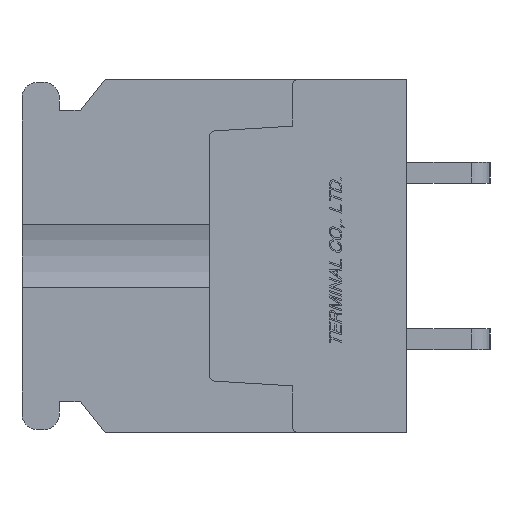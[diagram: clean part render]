
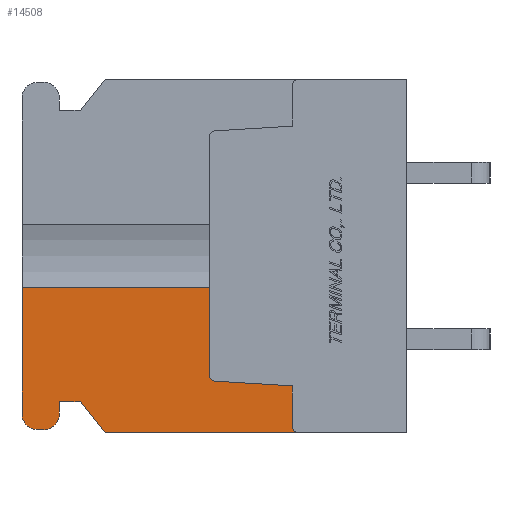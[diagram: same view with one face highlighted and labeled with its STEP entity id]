
A CAD part, left-side view. The second image highlights one B-rep face of the part: STEP entity #14508.
In plain terms, the highlighted planar face has unit normal (-1, 0, 0).
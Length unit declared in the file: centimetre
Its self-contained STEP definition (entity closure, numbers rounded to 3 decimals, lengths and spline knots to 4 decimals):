
#1771=VECTOR('',#17710,1.);
#1772=VECTOR('',#17711,1.);
#1773=VECTOR('',#17712,1.);
#1774=VECTOR('',#17715,1.);
#1775=VECTOR('',#17718,1.);
#1776=VECTOR('',#17719,1.);
#1777=VECTOR('',#17720,1.);
#1778=VECTOR('',#17721,1.);
#1779=VECTOR('',#17724,1.);
#1780=VECTOR('',#17725,1.);
#3356=LINE('',#22262,#1771);
#3357=LINE('',#22265,#1772);
#3358=LINE('',#22267,#1773);
#3359=LINE('',#22271,#1774);
#3360=LINE('',#22275,#1775);
#3361=LINE('',#22277,#1776);
#3362=LINE('',#22279,#1777);
#3363=LINE('',#22281,#1778);
#3364=LINE('',#22285,#1779);
#3365=LINE('',#22287,#1780);
#4887=VERTEX_POINT('',#22263);
#4888=VERTEX_POINT('',#22264);
#4889=VERTEX_POINT('',#22266);
#4890=VERTEX_POINT('',#22268);
#4891=VERTEX_POINT('',#22270);
#4892=VERTEX_POINT('',#22272);
#4893=VERTEX_POINT('',#22274);
#4894=VERTEX_POINT('',#22276);
#4895=VERTEX_POINT('',#22278);
#4896=VERTEX_POINT('',#22280);
#4897=VERTEX_POINT('',#22282);
#4898=VERTEX_POINT('',#22284);
#4899=VERTEX_POINT('',#22286);
#4900=VERTEX_POINT('',#22288);
#5537=CIRCLE('',#24733,0.075);
#5538=CIRCLE('',#24734,0.075);
#5539=CIRCLE('',#24735,0.03);
#5540=CIRCLE('',#24736,0.03);
#7174=EDGE_CURVE('',#4887,#4888,#3356,.T.);
#7175=EDGE_CURVE('',#4887,#4889,#3357,.T.);
#7176=EDGE_CURVE('',#4890,#4889,#3358,.T.);
#7177=EDGE_CURVE('',#4891,#4890,#5537,.T.);
#7178=EDGE_CURVE('',#4892,#4891,#3359,.T.);
#7179=EDGE_CURVE('',#4893,#4892,#5538,.T.);
#7180=EDGE_CURVE('',#4894,#4893,#3360,.T.);
#7181=EDGE_CURVE('',#4895,#4894,#3361,.T.);
#7182=EDGE_CURVE('',#4896,#4895,#3362,.T.);
#7183=EDGE_CURVE('',#4897,#4896,#3363,.T.);
#7184=EDGE_CURVE('',#4898,#4897,#5539,.T.);
#7185=EDGE_CURVE('',#4899,#4898,#3364,.T.);
#7186=EDGE_CURVE('',#4900,#4899,#3365,.T.);
#7187=EDGE_CURVE('',#4888,#4900,#5540,.T.);
#10865=ORIENTED_EDGE('',*,*,#7174,.F.);
#10866=ORIENTED_EDGE('',*,*,#7175,.T.);
#10867=ORIENTED_EDGE('',*,*,#7176,.F.);
#10868=ORIENTED_EDGE('',*,*,#7177,.F.);
#10869=ORIENTED_EDGE('',*,*,#7178,.F.);
#10870=ORIENTED_EDGE('',*,*,#7179,.F.);
#10871=ORIENTED_EDGE('',*,*,#7180,.F.);
#10872=ORIENTED_EDGE('',*,*,#7181,.F.);
#10873=ORIENTED_EDGE('',*,*,#7182,.F.);
#10874=ORIENTED_EDGE('',*,*,#7183,.F.);
#10875=ORIENTED_EDGE('',*,*,#7184,.F.);
#10876=ORIENTED_EDGE('',*,*,#7185,.F.);
#10877=ORIENTED_EDGE('',*,*,#7186,.F.);
#10878=ORIENTED_EDGE('',*,*,#7187,.F.);
#12771=EDGE_LOOP('',(#10865,#10866,#10867,#10868,#10869,#10870,#10871,#10872,
#10873,#10874,#10875,#10876,#10877,#10878));
#13669=FACE_BOUND('',#12771,.T.);
#14508=ADVANCED_FACE('',(#13669),#15116,.F.);
#15116=PLANE('',#24732);
#17709=DIRECTION('',(1.,0.,0.));
#17710=DIRECTION('',(0.,0.,-1.));
#17711=DIRECTION('',(0.,1.,0.));
#17712=DIRECTION('',(0.,0.,1.));
#17713=DIRECTION('',(1.,0.,0.));
#17714=DIRECTION('',(0.,0.,-0.075));
#17715=DIRECTION('',(0.,1.,0.));
#17716=DIRECTION('',(1.,0.,0.));
#17717=DIRECTION('',(0.,0.,-0.075));
#17718=DIRECTION('',(0.,0.,-1.));
#17719=DIRECTION('',(0.,1.,0.));
#17720=DIRECTION('',(0.,0.625,0.781));
#17721=DIRECTION('',(0.,1.,0.));
#17722=DIRECTION('',(-1.,0.,0.));
#17723=DIRECTION('',(0.,0.,0.03));
#17724=DIRECTION('',(0.,0.,-1.));
#17725=DIRECTION('',(0.,-0.998,-0.061));
#17726=DIRECTION('',(-1.,0.,0.));
#17727=DIRECTION('',(0.,0.,0.03));
#22261=CARTESIAN_POINT('',(-1.1,0.9454,0.));
#22262=CARTESIAN_POINT('',(-1.1,0.95,0.5718));
#22263=CARTESIAN_POINT('',(-1.1,0.95,-0.1521));
#22264=CARTESIAN_POINT('',(-1.1,0.95,-0.5718));
#22265=CARTESIAN_POINT('',(-1.1,1.4,-0.1521));
#22266=CARTESIAN_POINT('',(-1.1,1.85,-0.1521));
#22267=CARTESIAN_POINT('',(-1.1,1.85,-0.76));
#22268=CARTESIAN_POINT('',(-1.1,1.85,-0.76));
#22269=CARTESIAN_POINT('',(-1.1,1.775,-0.76));
#22270=CARTESIAN_POINT('',(-1.1,1.775,-0.835));
#22271=CARTESIAN_POINT('',(-1.1,1.745,-0.835));
#22272=CARTESIAN_POINT('',(-1.1,1.745,-0.835));
#22273=CARTESIAN_POINT('',(-1.1,1.745,-0.76));
#22274=CARTESIAN_POINT('',(-1.1,1.67,-0.76));
#22275=CARTESIAN_POINT('',(-1.1,1.67,-0.7));
#22276=CARTESIAN_POINT('',(-1.1,1.67,-0.7));
#22277=CARTESIAN_POINT('',(-1.1,1.57,-0.7));
#22278=CARTESIAN_POINT('',(-1.1,1.57,-0.7));
#22279=CARTESIAN_POINT('',(-1.1,1.45,-0.85));
#22280=CARTESIAN_POINT('',(-1.1,1.45,-0.85));
#22281=CARTESIAN_POINT('',(-1.1,0.,-0.85));
#22282=CARTESIAN_POINT('',(-1.1,0.52,-0.85));
#22283=CARTESIAN_POINT('',(-1.1,0.52,-0.82));
#22284=CARTESIAN_POINT('',(-1.1,0.55,-0.82));
#22285=CARTESIAN_POINT('',(-1.1,0.55,-0.6245));
#22286=CARTESIAN_POINT('',(-1.1,0.55,-0.6245));
#22287=CARTESIAN_POINT('',(-1.1,0.9218,-0.6017));
#22288=CARTESIAN_POINT('',(-1.1,0.9218,-0.6017));
#22289=CARTESIAN_POINT('',(-1.1,0.92,-0.5718));
#24732=AXIS2_PLACEMENT_3D('',#22261,#17709,$);
#24733=AXIS2_PLACEMENT_3D('',#22269,#17713,#17714);
#24734=AXIS2_PLACEMENT_3D('',#22273,#17716,#17717);
#24735=AXIS2_PLACEMENT_3D('',#22283,#17722,#17723);
#24736=AXIS2_PLACEMENT_3D('',#22289,#17726,#17727);
